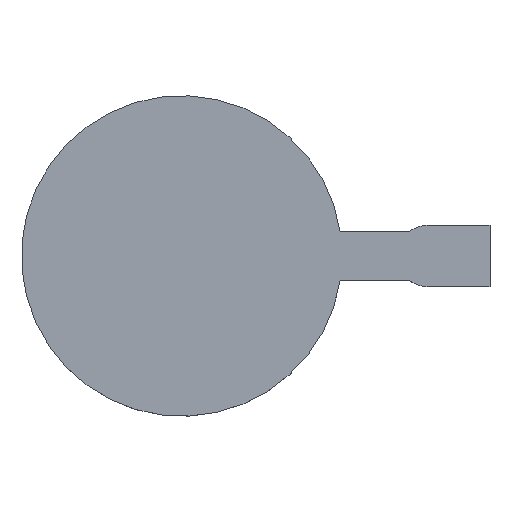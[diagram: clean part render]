
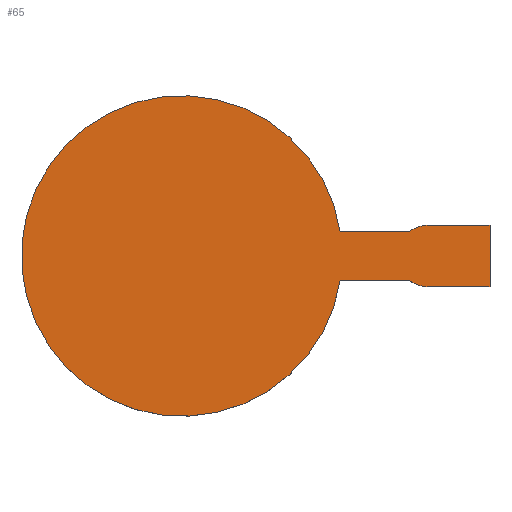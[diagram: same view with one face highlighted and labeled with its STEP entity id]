
A CAD part, top view. The second image highlights one B-rep face of the part: STEP entity #65.
In plain terms, the highlighted planar face has unit normal (0, 0, 1).
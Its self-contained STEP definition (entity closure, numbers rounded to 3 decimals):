
#65 = ADVANCED_FACE( '', ( #141 ), #142, .T. );
#141 = FACE_OUTER_BOUND( '', #240, .T. );
#142 = PLANE( '', #241 );
#240 = EDGE_LOOP( '', ( #382, #383, #384, #385, #386, #387, #388, #389 ) );
#241 = AXIS2_PLACEMENT_3D( '', #390, #391, #392 );
#382 = ORIENTED_EDGE( '', *, *, #571, .T. );
#383 = ORIENTED_EDGE( '', *, *, #576, .T. );
#384 = ORIENTED_EDGE( '', *, *, #565, .T. );
#385 = ORIENTED_EDGE( '', *, *, #577, .T. );
#386 = ORIENTED_EDGE( '', *, *, #578, .T. );
#387 = ORIENTED_EDGE( '', *, *, #579, .T. );
#388 = ORIENTED_EDGE( '', *, *, #557, .T. );
#389 = ORIENTED_EDGE( '', *, *, #580, .T. );
#390 = CARTESIAN_POINT( '', ( -125., -125., 2.5 ) );
#391 = DIRECTION( '', ( 0., 0., 1. ) );
#392 = DIRECTION( '', ( 0., -1., 0. ) );
#557 = EDGE_CURVE( '', #637, #635, #638, .T. );
#565 = EDGE_CURVE( '', #652, #650, #653, .T. );
#571 = EDGE_CURVE( '', #662, #663, #664, .T. );
#576 = EDGE_CURVE( '', #663, #652, #671, .T. );
#577 = EDGE_CURVE( '', #650, #672, #673, .T. );
#578 = EDGE_CURVE( '', #672, #674, #675, .T. );
#579 = EDGE_CURVE( '', #674, #637, #676, .T. );
#580 = EDGE_CURVE( '', #635, #662, #677, .T. );
#635 = VERTEX_POINT( '', #750 );
#637 = VERTEX_POINT( '', #753 );
#638 = LINE( '', #754, #755 );
#650 = VERTEX_POINT( '', #772 );
#652 = VERTEX_POINT( '', #775 );
#653 = LINE( '', #776, #777 );
#662 = VERTEX_POINT( '', #790 );
#663 = VERTEX_POINT( '', #791 );
#664 = LINE( '', #792, #793 );
#671 = CIRCLE( '', #803, 12.5 );
#672 = VERTEX_POINT( '', #804 );
#673 = CIRCLE( '', #805, 65. );
#674 = VERTEX_POINT( '', #806 );
#675 = LINE( '', #807, #808 );
#676 = CIRCLE( '', #809, 12.5 );
#677 = LINE( '', #810, #811 );
#750 = CARTESIAN_POINT( '', ( 125., -12.5, 2.5 ) );
#753 = CARTESIAN_POINT( '', ( 100., -12.5, 2.5 ) );
#754 = CARTESIAN_POINT( '', ( 100., -12.5, 2.5 ) );
#755 = VECTOR( '', #891, 1000. );
#772 = CARTESIAN_POINT( '', ( 64.226, 10., 2.5 ) );
#775 = CARTESIAN_POINT( '', ( 92.5, 10., 2.5 ) );
#776 = CARTESIAN_POINT( '', ( 100., 10., 2.5 ) );
#777 = VECTOR( '', #898, 1000. );
#790 = CARTESIAN_POINT( '', ( 125., 12.5, 2.5 ) );
#791 = CARTESIAN_POINT( '', ( 100., 12.5, 2.5 ) );
#792 = CARTESIAN_POINT( '', ( 148.185, 12.5, 2.5 ) );
#793 = VECTOR( '', #903, 1000. );
#803 = AXIS2_PLACEMENT_3D( '', #907, #908, #909 );
#804 = CARTESIAN_POINT( '', ( 64.226, -10., 2.5 ) );
#805 = AXIS2_PLACEMENT_3D( '', #910, #911, #912 );
#806 = CARTESIAN_POINT( '', ( 92.5, -10., 2.5 ) );
#807 = CARTESIAN_POINT( '', ( 0., -10., 2.5 ) );
#808 = VECTOR( '', #913, 1000. );
#809 = AXIS2_PLACEMENT_3D( '', #914, #915, #916 );
#810 = CARTESIAN_POINT( '', ( 125., -125., 2.5 ) );
#811 = VECTOR( '', #917, 1000. );
#891 = DIRECTION( '', ( 1., 0., 0. ) );
#898 = DIRECTION( '', ( -1., 0., 0. ) );
#903 = DIRECTION( '', ( -1., 0., 0. ) );
#907 = CARTESIAN_POINT( '', ( 100., 0., 2.5 ) );
#908 = DIRECTION( '', ( 0., 0., 1. ) );
#909 = DIRECTION( '', ( 0., 1., 0. ) );
#910 = CARTESIAN_POINT( '', ( 0., 0., 2.5 ) );
#911 = DIRECTION( '', ( 0., 0., 1. ) );
#912 = DIRECTION( '', ( 1., 0., 0. ) );
#913 = DIRECTION( '', ( 1., 0., 0. ) );
#914 = CARTESIAN_POINT( '', ( 100., 0., 2.5 ) );
#915 = DIRECTION( '', ( 0., 0., 1. ) );
#916 = DIRECTION( '', ( 0., 1., 0. ) );
#917 = DIRECTION( '', ( 0., 1., 0. ) );
